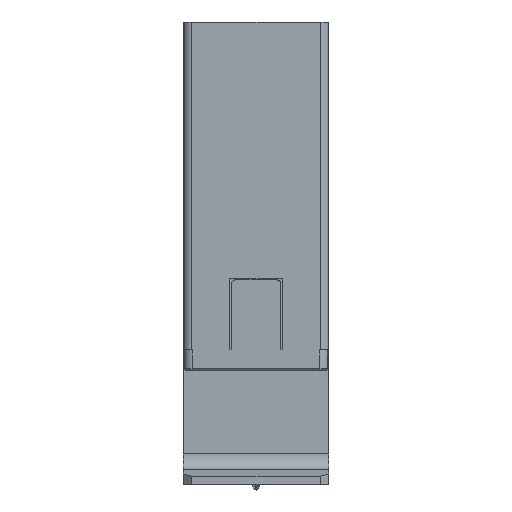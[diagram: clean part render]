
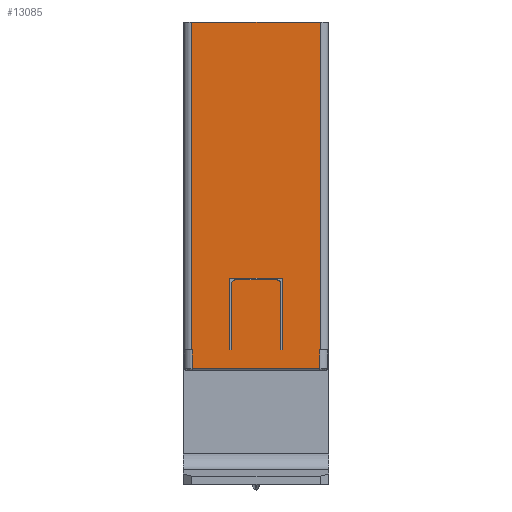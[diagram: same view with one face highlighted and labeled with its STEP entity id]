
A CAD part, top view. The second image highlights one B-rep face of the part: STEP entity #13085.
In plain terms, the highlighted planar face has unit normal (0, 0, 1).
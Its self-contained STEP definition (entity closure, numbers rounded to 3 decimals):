
#57 = DIRECTION ( 'NONE',  ( 0., 1., 0. ) ) ;
#228 = EDGE_CURVE ( 'NONE', #17575, #19228, #16419, .T. ) ;
#296 = DIRECTION ( 'NONE',  ( 0., -1., 0. ) ) ;
#418 = DIRECTION ( 'NONE',  ( 1., 0., 0. ) ) ;
#462 = EDGE_CURVE ( 'NONE', #10590, #4222, #2449, .T. ) ;
#541 = CARTESIAN_POINT ( 'NONE',  ( 69.493, -42.047, 187.477 ) ) ;
#762 = ORIENTED_EDGE ( 'NONE', *, *, #11512, .F. ) ;
#884 = VECTOR ( 'NONE', #19183, 1000. ) ;
#953 = EDGE_CURVE ( 'NONE', #11983, #12850, #16422, .T. ) ;
#1090 = VECTOR ( 'NONE', #18161, 1000. ) ;
#1479 = VECTOR ( 'NONE', #17541, 1000. ) ;
#1524 = AXIS2_PLACEMENT_3D ( 'NONE', #12046, #3123, #6092 ) ;
#1917 = ORIENTED_EDGE ( 'NONE', *, *, #18272, .F. ) ;
#1958 = CARTESIAN_POINT ( 'NONE',  ( 64.143, -18.847, 187.477 ) ) ;
#2027 = CARTESIAN_POINT ( 'NONE',  ( 53.593, 13.653, 187.477 ) ) ;
#2175 = CARTESIAN_POINT ( 'NONE',  ( 64.843, -27.047, 187.477 ) ) ;
#2322 = VERTEX_POINT ( 'NONE', #11127 ) ;
#2373 = LINE ( 'NONE', #16319, #12935 ) ;
#2449 = LINE ( 'NONE', #2648, #15211 ) ;
#2565 = DIRECTION ( 'NONE',  ( -1., 0., 0. ) ) ;
#2572 = ORIENTED_EDGE ( 'NONE', *, *, #6047, .F. ) ;
#2648 = CARTESIAN_POINT ( 'NONE',  ( 52.593, -18.147, 187.477 ) ) ;
#2693 = VERTEX_POINT ( 'NONE', #17858 ) ;
#2924 = VECTOR ( 'NONE', #18822, 1000. ) ;
#3106 = AXIS2_PLACEMENT_3D ( 'NONE', #1958, #15991, #418 ) ;
#3123 = DIRECTION ( 'NONE',  ( 0., 0., -1. ) ) ;
#3357 = CARTESIAN_POINT ( 'NONE',  ( 69.493, -27.047, 187.477 ) ) ;
#4222 = VERTEX_POINT ( 'NONE', #11634 ) ;
#4265 = FACE_BOUND ( 'NONE', #5825, .T. ) ;
#4418 = VECTOR ( 'NONE', #57, 1000. ) ;
#4465 = ORIENTED_EDGE ( 'NONE', *, *, #19004, .F. ) ;
#4473 = VERTEX_POINT ( 'NONE', #18167 ) ;
#4641 = VERTEX_POINT ( 'NONE', #15902 ) ;
#4746 = DIRECTION ( 'NONE',  ( 1., 0., 0. ) ) ;
#4818 = ORIENTED_EDGE ( 'NONE', *, *, #15965, .F. ) ;
#4831 = CARTESIAN_POINT ( 'NONE',  ( 64.143, -18.347, 187.477 ) ) ;
#5103 = EDGE_CURVE ( 'NONE', #2322, #5654, #5692, .T. ) ;
#5130 = CARTESIAN_POINT ( 'NONE',  ( 69.493, -18.347, 187.477 ) ) ;
#5133 = CARTESIAN_POINT ( 'NONE',  ( 53.693, -27.047, 187.477 ) ) ;
#5265 = ORIENTED_EDGE ( 'NONE', *, *, #5103, .F. ) ;
#5342 = CARTESIAN_POINT ( 'NONE',  ( 58.573, -27.047, 187.477 ) ) ;
#5609 = EDGE_CURVE ( 'NONE', #12850, #5675, #17839, .T. ) ;
#5648 = ORIENTED_EDGE ( 'NONE', *, *, #5609, .F. ) ;
#5654 = VERTEX_POINT ( 'NONE', #2175 ) ;
#5675 = VERTEX_POINT ( 'NONE', #13117 ) ;
#5692 = LINE ( 'NONE', #19633, #14430 ) ;
#5825 = EDGE_LOOP ( 'NONE', ( #7696, #5265, #7433, #6498, #7806, #4818, #8133, #6431, #11591, #12324 ) ) ;
#6047 = EDGE_CURVE ( 'NONE', #12980, #17575, #12069, .T. ) ;
#6092 = DIRECTION ( 'NONE',  ( 0., 1., 0. ) ) ;
#6380 = CIRCLE ( 'NONE', #3106, 0.5 ) ;
#6431 = ORIENTED_EDGE ( 'NONE', *, *, #16110, .F. ) ;
#6484 = EDGE_CURVE ( 'NONE', #7656, #4473, #6687, .T. ) ;
#6498 = ORIENTED_EDGE ( 'NONE', *, *, #11654, .F. ) ;
#6687 = LINE ( 'NONE', #12927, #884 ) ;
#6788 = CARTESIAN_POINT ( 'NONE',  ( 64.643, -42.047, 187.477 ) ) ;
#6923 = ORIENTED_EDGE ( 'NONE', *, *, #13881, .T. ) ;
#6955 = VECTOR ( 'NONE', #8044, 1000. ) ;
#7433 = ORIENTED_EDGE ( 'NONE', *, *, #19042, .F. ) ;
#7656 = VERTEX_POINT ( 'NONE', #5342 ) ;
#7660 = DIRECTION ( 'NONE',  ( 0., 1., 0. ) ) ;
#7696 = ORIENTED_EDGE ( 'NONE', *, *, #11950, .F. ) ;
#7806 = ORIENTED_EDGE ( 'NONE', *, *, #12458, .F. ) ;
#7926 = CARTESIAN_POINT ( 'NONE',  ( 64.843, 17.853, 187.477 ) ) ;
#8044 = DIRECTION ( 'NONE',  ( -1., 0., 0. ) ) ;
#8133 = ORIENTED_EDGE ( 'NONE', *, *, #6484, .F. ) ;
#8322 = DIRECTION ( 'NONE',  ( -1., 0., 0. ) ) ;
#8344 = AXIS2_PLACEMENT_3D ( 'NONE', #18376, #20229, #4746 ) ;
#8367 = VECTOR ( 'NONE', #19289, 1000. ) ;
#8894 = LINE ( 'NONE', #15142, #9974 ) ;
#9300 = CARTESIAN_POINT ( 'NONE',  ( 69.593, 13.653, 187.477 ) ) ;
#9762 = DIRECTION ( 'NONE',  ( 0., -1., 0. ) ) ;
#9974 = VECTOR ( 'NONE', #13488, 1000. ) ;
#10335 = DIRECTION ( 'NONE',  ( -1., 0., 0. ) ) ;
#10402 = VECTOR ( 'NONE', #296, 1000. ) ;
#10531 = LINE ( 'NONE', #5130, #13930 ) ;
#10535 = CARTESIAN_POINT ( 'NONE',  ( 53.693, -42.047, 187.477 ) ) ;
#10590 = VERTEX_POINT ( 'NONE', #13395 ) ;
#10608 = PLANE ( 'NONE',  #1524 ) ;
#10704 = FACE_OUTER_BOUND ( 'NONE', #19163, .T. ) ;
#11127 = CARTESIAN_POINT ( 'NONE',  ( 64.643, -27.047, 187.477 ) ) ;
#11246 = LINE ( 'NONE', #18929, #2924 ) ;
#11512 = EDGE_CURVE ( 'NONE', #19228, #15836, #17643, .T. ) ;
#11591 = ORIENTED_EDGE ( 'NONE', *, *, #19735, .F. ) ;
#11593 = CARTESIAN_POINT ( 'NONE',  ( 52.593, -27.047, 187.477 ) ) ;
#11634 = CARTESIAN_POINT ( 'NONE',  ( 58.343, -18.147, 187.477 ) ) ;
#11654 = EDGE_CURVE ( 'NONE', #12402, #2693, #6380, .T. ) ;
#11950 = EDGE_CURVE ( 'NONE', #5654, #10590, #16040, .T. ) ;
#11983 = VERTEX_POINT ( 'NONE', #14178 ) ;
#12007 = LINE ( 'NONE', #18258, #1090 ) ;
#12046 = CARTESIAN_POINT ( 'NONE',  ( 69.493, -42.047, 187.477 ) ) ;
#12064 = DIRECTION ( 'NONE',  ( 1., 0., 0. ) ) ;
#12069 = LINE ( 'NONE', #10535, #17684 ) ;
#12324 = ORIENTED_EDGE ( 'NONE', *, *, #462, .F. ) ;
#12402 = VERTEX_POINT ( 'NONE', #4831 ) ;
#12458 = EDGE_CURVE ( 'NONE', #4641, #12402, #10531, .T. ) ;
#12461 = VECTOR ( 'NONE', #9762, 1000. ) ;
#12612 = CARTESIAN_POINT ( 'NONE',  ( 53.593, 17.853, 187.477 ) ) ;
#12850 = VERTEX_POINT ( 'NONE', #3357 ) ;
#12909 = CIRCLE ( 'NONE', #8344, 0.5 ) ;
#12927 = CARTESIAN_POINT ( 'NONE',  ( 58.573, -42.047, 187.477 ) ) ;
#12935 = VECTOR ( 'NONE', #2565, 1000. ) ;
#12980 = VERTEX_POINT ( 'NONE', #16663 ) ;
#13085 = ADVANCED_FACE ( 'NONE', ( #4265, #10704 ), #10608, .F. ) ;
#13117 = CARTESIAN_POINT ( 'NONE',  ( 69.493, -29.347, 187.477 ) ) ;
#13395 = CARTESIAN_POINT ( 'NONE',  ( 64.843, -18.147, 187.477 ) ) ;
#13488 = DIRECTION ( 'NONE',  ( -1., 0., 0. ) ) ;
#13881 = EDGE_CURVE ( 'NONE', #19733, #15836, #8894, .T. ) ;
#13899 = LINE ( 'NONE', #14008, #10402 ) ;
#13930 = VECTOR ( 'NONE', #12064, 1000. ) ;
#14008 = CARTESIAN_POINT ( 'NONE',  ( 69.593, 17.853, 187.477 ) ) ;
#14178 = CARTESIAN_POINT ( 'NONE',  ( 69.593, -27.047, 187.477 ) ) ;
#14308 = ORIENTED_EDGE ( 'NONE', *, *, #228, .F. ) ;
#14430 = VECTOR ( 'NONE', #20038, 1000. ) ;
#14582 = VERTEX_POINT ( 'NONE', #15375 ) ;
#14764 = CARTESIAN_POINT ( 'NONE',  ( 61.593, -27.047, 187.477 ) ) ;
#15068 = LINE ( 'NONE', #6788, #8367 ) ;
#15142 = CARTESIAN_POINT ( 'NONE',  ( 52.593, 13.653, 187.477 ) ) ;
#15211 = VECTOR ( 'NONE', #10335, 1000. ) ;
#15375 = CARTESIAN_POINT ( 'NONE',  ( 58.343, -27.047, 187.477 ) ) ;
#15515 = VECTOR ( 'NONE', #8322, 1000. ) ;
#15836 = VERTEX_POINT ( 'NONE', #2027 ) ;
#15902 = CARTESIAN_POINT ( 'NONE',  ( 59.073, -18.347, 187.477 ) ) ;
#15965 = EDGE_CURVE ( 'NONE', #4473, #4641, #12909, .T. ) ;
#15991 = DIRECTION ( 'NONE',  ( 0., 0., -1. ) ) ;
#16040 = LINE ( 'NONE', #7926, #4418 ) ;
#16110 = EDGE_CURVE ( 'NONE', #14582, #7656, #12007, .T. ) ;
#16319 = CARTESIAN_POINT ( 'NONE',  ( 69.493, -29.347, 187.477 ) ) ;
#16419 = LINE ( 'NONE', #14764, #15515 ) ;
#16422 = LINE ( 'NONE', #11593, #6955 ) ;
#16663 = CARTESIAN_POINT ( 'NONE',  ( 53.693, -29.347, 187.477 ) ) ;
#16710 = CARTESIAN_POINT ( 'NONE',  ( 53.593, -27.047, 187.477 ) ) ;
#17541 = DIRECTION ( 'NONE',  ( 0., 1., 0. ) ) ;
#17575 = VERTEX_POINT ( 'NONE', #5133 ) ;
#17643 = LINE ( 'NONE', #12612, #1479 ) ;
#17684 = VECTOR ( 'NONE', #7660, 1000. ) ;
#17839 = LINE ( 'NONE', #541, #12461 ) ;
#17858 = CARTESIAN_POINT ( 'NONE',  ( 64.643, -18.847, 187.477 ) ) ;
#17938 = ORIENTED_EDGE ( 'NONE', *, *, #953, .F. ) ;
#18161 = DIRECTION ( 'NONE',  ( 1., 0., 0. ) ) ;
#18167 = CARTESIAN_POINT ( 'NONE',  ( 58.573, -18.847, 187.477 ) ) ;
#18258 = CARTESIAN_POINT ( 'NONE',  ( 69.493, -27.047, 187.477 ) ) ;
#18272 = EDGE_CURVE ( 'NONE', #19733, #11983, #13899, .T. ) ;
#18376 = CARTESIAN_POINT ( 'NONE',  ( 59.073, -18.847, 187.477 ) ) ;
#18822 = DIRECTION ( 'NONE',  ( 0., -1., 0. ) ) ;
#18929 = CARTESIAN_POINT ( 'NONE',  ( 58.343, 17.853, 187.477 ) ) ;
#19004 = EDGE_CURVE ( 'NONE', #5675, #12980, #2373, .T. ) ;
#19042 = EDGE_CURVE ( 'NONE', #2693, #2322, #15068, .T. ) ;
#19163 = EDGE_LOOP ( 'NONE', ( #4465, #5648, #17938, #1917, #6923, #762, #14308, #2572 ) ) ;
#19183 = DIRECTION ( 'NONE',  ( 0., 1., 0. ) ) ;
#19228 = VERTEX_POINT ( 'NONE', #16710 ) ;
#19289 = DIRECTION ( 'NONE',  ( 0., -1., 0. ) ) ;
#19633 = CARTESIAN_POINT ( 'NONE',  ( 69.493, -27.047, 187.477 ) ) ;
#19733 = VERTEX_POINT ( 'NONE', #9300 ) ;
#19735 = EDGE_CURVE ( 'NONE', #4222, #14582, #11246, .T. ) ;
#20038 = DIRECTION ( 'NONE',  ( 1., 0., 0. ) ) ;
#20229 = DIRECTION ( 'NONE',  ( 0., 0., -1. ) ) ;
